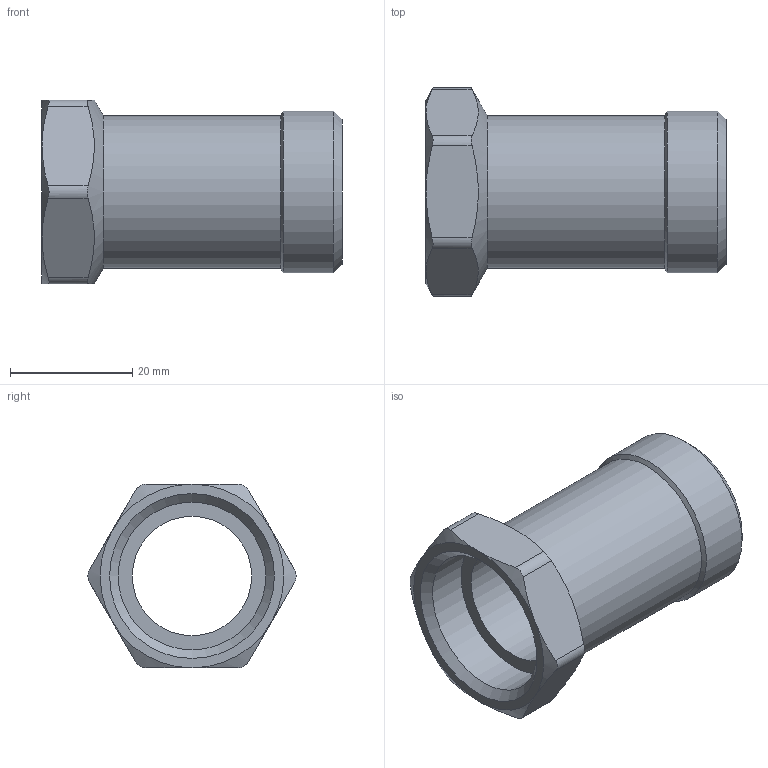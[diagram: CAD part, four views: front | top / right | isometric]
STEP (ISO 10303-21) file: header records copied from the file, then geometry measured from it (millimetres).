
FILE_DESCRIPTION(('STEP AP203'), '1');
FILE_NAME('ÂÐ.753128.051 - Óäë. êëàï. G3-4', '', ('UNSPECIFIED'), ('UNSPECIFIED'), 'C3D Converter', 'C3D Toolkit', '');
FILE_SCHEMA(('CONFIG_CONTROL_DESIGN'));
Length unit declared in the file: millimetre
Products named in the file (1): ВР.753128.051
Bounding box: 49 x 34.02 x 30 mm (x, y, z)
Volume: 11114.3 mm3; surface area: 7971 mm2
Topology: 1 solids, 1 shells, 29 faces, 77 edges, 53 vertices
Faces by surface type: cylinder 10, cone 10, plane 9
Full cylindrical faces by diameter (mm): 19.5 x1, 24.118 x1, 25 x1, 26.441 x1
Entity records: 2165 total; most frequent: CARTESIAN_POINT 1459, DIRECTION 120, ORIENTED_EDGE 116, EDGE_CURVE 58, AXIS2_PLACEMENT_3D 54, EDGE_LOOP 41, VERTEX_POINT 41, B_SPLINE_CURVE_WITH_KNOTS 32
